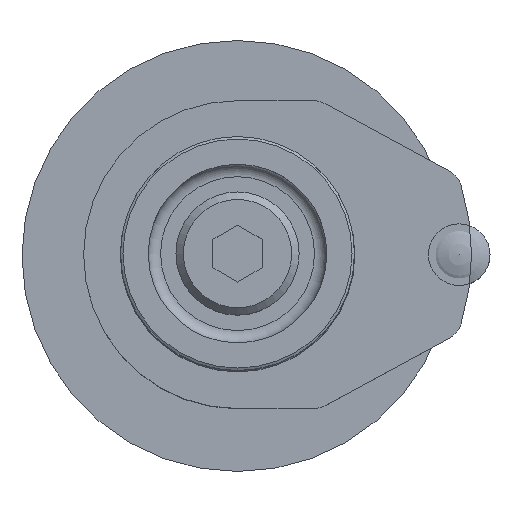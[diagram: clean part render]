
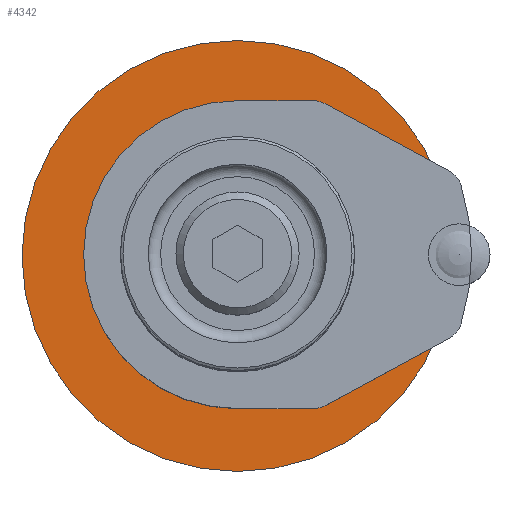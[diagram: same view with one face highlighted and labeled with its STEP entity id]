
A CAD part, top view. The second image highlights one B-rep face of the part: STEP entity #4342.
In plain terms, the highlighted planar face has unit normal (0, 0, 1).
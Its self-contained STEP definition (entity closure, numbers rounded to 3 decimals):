
#4088=PLANE('',#6543);
#4175=FACE_OUTER_BOUND('',#4889,.T.);
#4342=ADVANCED_FACE('',(#4175),#4088,.F.);
#4889=EDGE_LOOP('',(#5337));
#5337=ORIENTED_EDGE('',*,*,#6031,.F.);
#5765=VERTEX_POINT('',#8091);
#6031=EDGE_CURVE('',#5765,#5765,#6269,.T.);
#6269=CIRCLE('',#6541,17.5);
#6541=AXIS2_PLACEMENT_3D('',#8090,#7178,#7179);
#6543=AXIS2_PLACEMENT_3D('',#8093,#7182,#7183);
#7178=DIRECTION('',(0.,0.,-1.));
#7179=DIRECTION('',(0.,1.,0.));
#7182=DIRECTION('',(0.,0.,-1.));
#7183=DIRECTION('',(-1.,0.,0.));
#8090=CARTESIAN_POINT('',(0.,0.,70.));
#8091=CARTESIAN_POINT('',(0.,17.5,70.));
#8093=CARTESIAN_POINT('',(0.,0.,70.));
